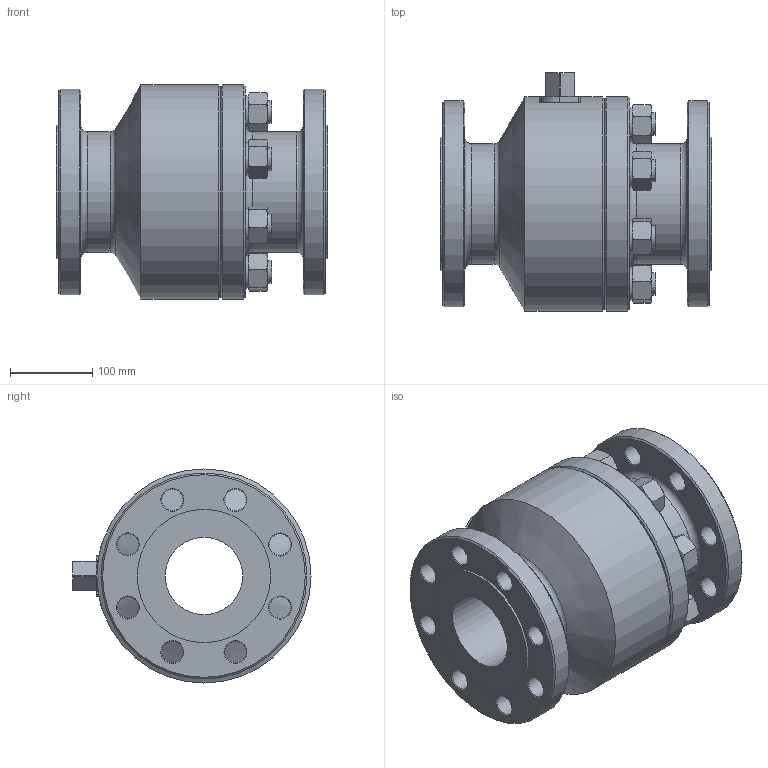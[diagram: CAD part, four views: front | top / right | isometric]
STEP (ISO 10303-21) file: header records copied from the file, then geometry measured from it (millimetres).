
FILE_DESCRIPTION((''),'2;1');
FILE_NAME('C:\Users\Bartek\Desktop\Nowy folder (2)\Nowy folder (22)\WK5b\WK5b DN100 PN63_Substitute_1.stp','2024-09-17T10:28:19',('Bartek'),(''),'Autodesk Inventor 2012','Autodesk Inventor 2012','');
FILE_SCHEMA(('AUTOMOTIVE_DESIGN { 1 0 10303 214 1 1 1 1 }'));
Length unit declared in the file: millimetre
Products named in the file (1): WK5b DN100 PN63_Substitute_1
Bounding box: 330 x 289 x 260 mm (x, y, z)
Volume: 10264145.6 mm3; surface area: 624546.5 mm2
Topology: 1 solids, 1 shells, 295 faces, 651 edges, 391 vertices
Faces by surface type: cone 144, plane 97, cylinder 50, torus 4
Full cylindrical faces by diameter (mm): 26 x16, 27 x8, 40 x8, 94 x1, 146 x2, 162 x2, 180 x1, 250 x2, 260 x2
Entity records: 7551 total; most frequent: CARTESIAN_POINT 1580, DIRECTION 1186, ORIENTED_EDGE 1066, AXIS2_PLACEMENT_3D 549, EDGE_CURVE 533, EDGE_LOOP 456, VERTEX_POINT 367, STYLED_ITEM 296
